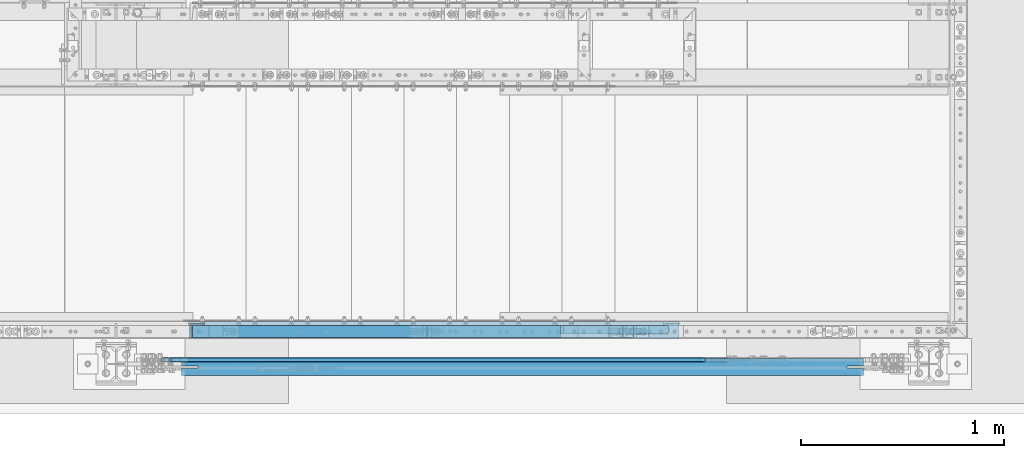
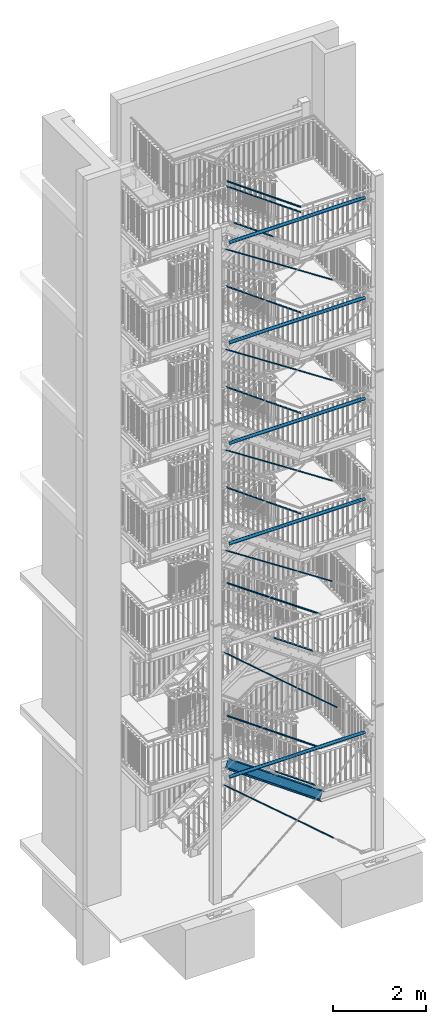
# One storey, part 118 of 825: 17 members, 5 beams, 32 openings.
"""IFC2X3 building model written with IfcOpenShell, lengths in millimetres."""

import ifcopenshell
import ifcopenshell.guid

model = None  # the IFC model being written
_history = None  # IfcOwnerHistory: only IFC2X3 demands one
_inside = {}  # id of a spatial element -> (the spatial element, [elements in it])
_under = {}  # id of a project, library or spatial element -> (it, [spatial elements below it])
_declared = {}  # id of a project -> (the project, [libraries it declares])
_typed = {}  # id of a type object -> (the type object, [elements of that type])
_made_of = {}  # id of a material, layer set ... -> (it, [elements and type objects made of it])


def new_model(schema):
    """Start an empty IFC model of exactly this schema.

    Asked for "IFC4X3", IfcOpenShell would pick the latest addendum, in which some entities
    have other attributes; the version numbers below select the first issue.
    IFC2X3 requires an IfcOwnerHistory on every rooted entity: one is made here for all.
    """
    global model, _history
    if schema == "IFC4X3":
        model = ifcopenshell.file(schema_version=(4, 3, 0, 0))
    else:
        model = ifcopenshell.file(schema=schema)
    _inside.clear()
    _under.clear()
    _declared.clear()
    _typed.clear()
    _made_of.clear()
    _history = None
    if model.schema == "IFC2X3":
        org = make("IfcOrganization", Name="unknown")
        user = make(
            "IfcPersonAndOrganization",
            ThePerson=make("IfcPerson", FamilyName="unknown"),
            TheOrganization=org,
        )
        app = make(
            "IfcApplication",
            ApplicationDeveloper=org,
            Version="unknown",
            ApplicationFullName="unknown",
            ApplicationIdentifier="unknown",
        )
        _history = make(
            "IfcOwnerHistory",
            OwningUser=user,
            OwningApplication=app,
            ChangeAction="ADDED",
            CreationDate=0,
        )
    return model


def make(cls, **values):
    """One entity of the class cls with the attributes given. An attribute that is None is left unset."""
    return model.create_entity(
        cls, **{name: value for name, value in values.items() if value is not None}
    )


def entity(cls, *values):
    """Any entity or typed value of the class cls, its attributes in the order of the schema. None: left unset."""
    e = model.create_entity(cls)
    for i, value in enumerate(values):
        if value is not None:
            e[i] = value
    return e


def rooted(cls, **values):
    """An entity with a GlobalId (a new one), such as an element, a storey or a relation."""
    return make(cls, GlobalId=ifcopenshell.guid.new(), OwnerHistory=_history, **values)


def si_unit(unit_type, name, prefix=None):
    """IfcSIUnit, for example si_unit("LENGTHUNIT", "METRE", prefix="MILLI")."""
    return make("IfcSIUnit", UnitType=unit_type, Prefix=prefix, Name=name)


def converted_unit(unit_type, name, factor, base, dimensions=None, offset=None):
    """IfcConversionBasedUnit, such as the inch: factor (a typed value) times the base unit."""
    return make(
        "IfcConversionBasedUnit"
        if offset is None
        else "IfcConversionBasedUnitWithOffset",
        ConversionOffset=offset,
        Dimensions=None
        if dimensions is None
        else entity("IfcDimensionalExponents", *dimensions),
        UnitType=unit_type,
        Name=name,
        ConversionFactor=make(
            "IfcMeasureWithUnit", ValueComponent=factor, UnitComponent=base
        ),
    )


def assignment(units):
    """IfcUnitAssignment: the units of a project."""
    return None if units is None else make("IfcUnitAssignment", Units=units)


def point(xyz):
    """IfcCartesianPoint."""
    return None if xyz is None else make("IfcCartesianPoint", Coordinates=xyz)


def direction(xyz):
    """IfcDirection."""
    return None if xyz is None else make("IfcDirection", DirectionRatios=xyz)


def frame(location, z_axis=None, x_axis=None):
    """IfcAxis2Placement3D, a coordinate frame: its origin and axes. An axis left out is left unset."""
    return make(
        "IfcAxis2Placement3D",
        Location=point(location),
        Axis=direction(z_axis),
        RefDirection=direction(x_axis),
    )


def frame_2d(location, x_axis=None):
    """IfcAxis2Placement2D, a coordinate frame in the plane: its origin and x axis."""
    return make(
        "IfcAxis2Placement2D", Location=point(location), RefDirection=direction(x_axis)
    )


def origin():
    """The frame at (0, 0, 0) with its axes left unset."""
    return frame((0.0, 0.0, 0.0))


def origin_with_axes():
    """The frame at (0, 0, 0) with the z axis (0, 0, 1) and the x axis (1, 0, 0) written out."""
    return frame((0.0, 0.0, 0.0), z_axis=(0.0, 0.0, 1.0), x_axis=(1.0, 0.0, 0.0))


def origin_2d():
    """The frame at (0, 0) in the plane with its x axis left unset."""
    return frame_2d((0.0, 0.0))


def origin_2d_with_axis():
    """The frame at (0, 0) in the plane with the x axis (1, 0) written out."""
    return frame_2d((0.0, 0.0), x_axis=(1.0, 0.0))


def place(relative_to, where):
    """IfcLocalPlacement: puts the frame where relative to a parent placement (None: the world)."""
    return make(
        "IfcLocalPlacement", PlacementRelTo=relative_to, RelativePlacement=where
    )


def context(
    kind, dimensions, precision=None, world=None, true_north=None, identifier=None
):
    """IfcGeometricRepresentationContext, for example the 3D "Model" context."""
    return make(
        "IfcGeometricRepresentationContext",
        ContextIdentifier=identifier,
        ContextType=kind,
        CoordinateSpaceDimension=dimensions,
        Precision=precision,
        WorldCoordinateSystem=world,
        TrueNorth=true_north,
    )


def project(units=None, contexts=None):
    """IfcProject with its units and contexts."""
    return rooted(
        "IfcProject",
        Name="project",
        RepresentationContexts=contexts,
        UnitsInContext=assignment(units),
    )


def spatial(cls, under=None, at=None, **own):
    """A site, building, storey or space (cls), placed at a placement, below another one or the project."""
    s = rooted(cls, ObjectPlacement=at, **own)
    if under is not None:
        _under.setdefault(under.id(), (under, []))[1].append(s)
    return s


def polyline(points):
    """IfcPolyline through the points."""
    return make("IfcPolyline", Points=[point(p) for p in points])


def profile(cls, at=None, kind="AREA", **sizes):
    """A parametric profile (cls). Its sizes go by their IFC names, for example OverallWidth=200.0."""
    return make(cls, ProfileType=kind, Position=at, **sizes)


def rectangle(**sizes):
    """IfcRectangleProfileDef."""
    return profile("IfcRectangleProfileDef", **sizes)


def circle(**sizes):
    """IfcCircleProfileDef."""
    return profile("IfcCircleProfileDef", **sizes)


def hollow_circle(**sizes):
    """IfcCircleHollowProfileDef."""
    return profile("IfcCircleHollowProfileDef", **sizes)


def u_section(**sizes):
    """IfcUShapeProfileDef."""
    return profile("IfcUShapeProfileDef", **sizes)


def outline(outer, holes=None, kind="AREA"):
    """IfcArbitraryClosedProfileDef: a profile drawn as a closed curve; with holes, ...WithVoids."""
    if holes is None:
        return make("IfcArbitraryClosedProfileDef", ProfileType=kind, OuterCurve=outer)
    return make(
        "IfcArbitraryProfileDefWithVoids",
        ProfileType=kind,
        OuterCurve=outer,
        InnerCurves=holes,
    )


def extrude(swept, where, along, depth):
    """IfcExtrudedAreaSolid: the profile swept, set in the frame where, extruded along a direction by depth."""
    return make(
        "IfcExtrudedAreaSolid",
        SweptArea=swept,
        Position=where,
        ExtrudedDirection=direction(along),
        Depth=depth,
    )


def clip(a, b, op="DIFFERENCE"):
    """IfcBooleanClippingResult: the solid a cut by the half space b."""
    return make(
        "IfcBooleanClippingResult", Operator=op, FirstOperand=a, SecondOperand=b
    )


def halfspace(plane, agree):
    """IfcHalfSpaceSolid: all space on one side of the plane z = 0 of the frame plane."""
    return make(
        "IfcHalfSpaceSolid",
        BaseSurface=make("IfcPlane", Position=plane),
        AgreementFlag=agree,
    )


def shape(context_of_items, identifier, shape_type, items):
    """IfcShapeRepresentation: the items that make up one representation, for example the "Body"."""
    return make(
        "IfcShapeRepresentation",
        ContextOfItems=context_of_items,
        RepresentationIdentifier=identifier,
        RepresentationType=shape_type,
        Items=items,
    )


def material(Name=None, Category=None):
    """IfcMaterial."""
    return make("IfcMaterial", Name=Name, Category=Category)


def made_of(thing, what):
    """Note that an element or type object is made of a material, layer set ...; save() writes the relation."""
    if what is not None:
        _made_of.setdefault(what.id(), (what, []))[1].append(thing)
    return thing


def element(
    cls,
    number,
    at=None,
    inside=None,
    cuts=None,
    type_object=None,
    material=None,
    context=None,
    identifier="Body",
    shape_type=None,
    held_by="IfcProductDefinitionShape",
    body=None,
    shapes=None,
    **own,
):
    """One element of the class cls, such as IfcWall. Its Tag is "e" and its number.

    at: its placement. inside: the storey or other place that contains it. cuts: it is an
    opening in that element (IfcRelVoidsElement). A single representation is given by context,
    identifier, shape_type and body (its items); several are given by shapes. held_by: the class
    of the entity that holds the representations. save() writes the other relations.
    """
    e = rooted(cls, Tag="e%d" % number, ObjectPlacement=at, **own)
    if body is not None:
        shapes = [shape(context, identifier, shape_type, body)]
    if shapes is not None:
        e.Representation = make(held_by, Representations=shapes)
    if inside is not None:
        _inside.setdefault(inside.id(), (inside, []))[1].append(e)
    if cuts is not None:
        rooted(
            "IfcRelVoidsElement", RelatingBuildingElement=cuts, RelatedOpeningElement=e
        )
    if type_object is not None:
        _typed.setdefault(type_object.id(), (type_object, []))[1].append(e)
    return made_of(e, material)


def aggregate(whole, parts):
    """IfcRelAggregates: a whole, such as a stair, and the parts it consists of."""
    return rooted("IfcRelAggregates", RelatingObject=whole, RelatedObjects=parts)


def save(model, path):
    """Write the relations noted so far, then the file.

    IfcRelAggregates (storeys below a building ...), IfcRelContainedInSpatialStructure (elements
    in a storey), IfcRelDefinesByType, IfcRelAssociatesMaterial and IfcRelDeclares: one each for
    every whole, place, type object, material and project.
    """
    for whole, parts in _under.values():
        aggregate(whole, parts)
    for where, things in _inside.values():
        rooted(
            "IfcRelContainedInSpatialStructure",
            RelatedElements=things,
            RelatingStructure=where,
        )
    for kind, things in _typed.values():
        rooted("IfcRelDefinesByType", RelatedObjects=things, RelatingType=kind)
    for what, things in _made_of.values():
        rooted("IfcRelAssociatesMaterial", RelatedObjects=things, RelatingMaterial=what)
    for by, libraries in _declared.values():
        rooted("IfcRelDeclares", RelatingContext=by, RelatedDefinitions=libraries)
    model.write(path)


model = new_model("IFC2X3")

# Units and contexts
model_context = context("Model", 3, precision=1e-09, world=origin_with_axes())
ifc_project = project(units=[si_unit("LENGTHUNIT", "METRE", prefix="MILLI"), si_unit("AREAUNIT", "SQUARE_METRE"), si_unit("VOLUMEUNIT", "CUBIC_METRE"), converted_unit("PLANEANGLEUNIT", "DEGREE", entity("IfcPlaneAngleMeasure", 0.01745329), si_unit("PLANEANGLEUNIT", "RADIAN"), dimensions=[0, 0, 0, 0, 0, 0, 0])], contexts=[model_context])

# Site, building, storey
site_placement = place(None, origin_with_axes())
site = spatial("IfcSite", under=ifc_project, at=site_placement, Name="Cnopf'sche Kinderklinik", CompositionType="ELEMENT")
building_placement = place(site_placement, origin_with_axes())
building = spatial("IfcBuilding", under=site, at=building_placement, Name="Struktur 1", CompositionType="ELEMENT")
storey_placement = place(building_placement, origin_with_axes())
storey = spatial("IfcBuildingStorey", under=building, at=storey_placement, Name="Default Storey", CompositionType="ELEMENT", Elevation=0.0)

# Members
ifc_material = material(Name="S235JR")
member_1_placement = place(None, frame((5085.030637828, 4386.736971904, 3315.453588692), z_axis=(0.757867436, 0.0, -0.652408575), x_axis=(0.652408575, 0.0, 0.757867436)))
element("IfcMember", 1, at=member_1_placement, inside=storey, material=ifc_material, Name="-", ObjectType="-", context=model_context, shape_type="SweptSolid", body=[
    extrude(circle(Radius=11.0, at=origin_2d()), origin(), (0.0, 0.0, 1.0), 3558.71454228),
])
member_2_placement = place(None, frame((5083.107423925, 4386.736971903, 6788.923578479), z_axis=(0.755906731, 0.0, -0.654679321), x_axis=(0.654679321, 0.0, 0.755906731)))
element("IfcMember", 2, at=member_2_placement, inside=storey, material=ifc_material, Name="-", ObjectType="-", context=model_context, shape_type="SweptSolid", body=[
    extrude(circle(Radius=11.0, at=origin_2d()), origin(), (0.0, 0.0, 1.0), 3695.890496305),
])
member_3_placement = place(None, frame((5121.759351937, 4386.736971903, 9443.034675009), z_axis=(0.83600607, 0.0, -0.548720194), x_axis=(0.548720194, 0.0, 0.83600607)))
element("IfcMember", 3, at=member_3_placement, inside=storey, material=ifc_material, Name="-", ObjectType="-", context=model_context, shape_type="SweptSolid", body=[
    extrude(circle(Radius=11.0, at=origin_2d()), origin(), (0.0, 0.0, 1.0), 3152.49296177),
])
member_4_placement = place(None, frame((5121.91149273, 4386.736971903, 12070.267324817), z_axis=(0.836491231, 0.0, -0.547980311), x_axis=(0.547980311, 0.0, 0.836491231)))
element("IfcMember", 4, at=member_4_placement, inside=storey, material=ifc_material, Name="-", ObjectType="-", context=model_context, shape_type="SweptSolid", body=[
    extrude(circle(Radius=11.0, at=origin_2d()), origin(), (0.0, 0.0, 1.0), 3149.751568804),
])
member_5_placement = place(None, frame((5121.66865522, 4386.736971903, 14704.895983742), z_axis=(0.835719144, 0.0, -0.549157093), x_axis=(0.549157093, 0.0, 0.835719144)))
element("IfcMember", 5, at=member_5_placement, inside=storey, material=ifc_material, Name="-", ObjectType="-", context=model_context, shape_type="SweptSolid", body=[
    extrude(circle(Radius=11.0, at=origin_2d()), origin(), (0.0, 0.0, 1.0), 3154.139325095),
])
member_6_placement = place(None, frame((5122.12270333, 4386.736971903, 17325.590428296), z_axis=(0.837153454, 0.0, -0.546968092), x_axis=(0.546968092, 0.0, 0.837153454)))
element("IfcMember", 6, at=member_6_placement, inside=storey, material=ifc_material, Name="-", ObjectType="-", context=model_context, shape_type="SweptSolid", body=[
    extrude(circle(Radius=11.0, at=origin_2d()), origin(), (0.0, 0.0, 1.0), 3145.919038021),
])

# Beam, openings
beam_1_placement = place(None, frame((5179.963402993, 4351.736971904, 3511.999996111), z_axis=(-1.0, 0.0, 0.0), x_axis=(0.0, 0.0, -1.0)))
beam_1 = element("IfcBeam", 7, at=beam_1_placement, inside=storey, material=ifc_material, Name="Girder", ObjectType="Girder", context=model_context, shape_type="SweptSolid", body=[
    extrude(hollow_circle(Radius=41.25, WallThickness=3.2, at=origin_2d()), origin(), (0.0, 0.0, -1.0), 3363.5),
])
opening_1_placement = place(beam_1_placement, frame((141.35, 0.0, -3363.5), z_axis=(-1.0, 0.0, 0.0), x_axis=(0.0, 0.0, -1.0)))
element("IfcOpeningElement", 8, at=opening_1_placement, cuts=beam_1, ObjectType="Opening", context=model_context, shape_type="SweptSolid", body=[
    extrude(outline(polyline([(-81.001, -5.501), (26.790041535, -5.501), (26.790041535, 5.501), (-81.001, 5.501), (-81.001, -5.501)])), origin(), (0.0, 0.0, 1.0), 282.7),
])
opening_2_placement = place(beam_1_placement, frame((141.35, 5.501, -81.002000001), z_axis=(1.0, 0.0, 0.0), x_axis=(0.0, 0.0, 1.0)))
element("IfcOpeningElement", 9, at=opening_2_placement, cuts=beam_1, ObjectType="Opening", context=model_context, shape_type="SweptSolid", body=[
    extrude(outline(polyline([(0.0, 0.0), (114.972485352, 0.0), (114.972485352, 11.002), (0.0, 11.002), (0.0, 0.0)])), origin(), (0.0, 0.0, -1.0), 282.7),
])

beam_2_placement = place(None, frame((5179.963402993, 4351.736971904, 9616.999996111), z_axis=(-1.0, 0.0, 0.0), x_axis=(0.0, 0.0, -1.0)))
beam_2 = element("IfcBeam", 10, at=beam_2_placement, inside=storey, material=ifc_material, Name="Girder", ObjectType="Girder", context=model_context, shape_type="SweptSolid", body=[
    extrude(hollow_circle(Radius=41.25, WallThickness=3.2, at=origin_2d()), origin(), (0.0, 0.0, -1.0), 3363.5),
])
opening_3_placement = place(beam_2_placement, frame((141.35, 0.0, -3363.5), z_axis=(-1.0, 0.0, 0.0), x_axis=(0.0, 0.0, -1.0)))
element("IfcOpeningElement", 11, at=opening_3_placement, cuts=beam_2, ObjectType="Opening", context=model_context, shape_type="SweptSolid", body=[
    extrude(outline(polyline([(-81.001, -5.501), (26.790041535, -5.501), (26.790041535, 5.501), (-81.001, 5.501), (-81.001, -5.501)])), origin(), (0.0, 0.0, 1.0), 282.7),
])
opening_4_placement = place(beam_2_placement, frame((141.35, 5.501, -81.002000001), z_axis=(1.0, 0.0, 0.0), x_axis=(0.0, 0.0, 1.0)))
element("IfcOpeningElement", 12, at=opening_4_placement, cuts=beam_2, ObjectType="Opening", context=model_context, shape_type="SweptSolid", body=[
    extrude(outline(polyline([(0.0, 0.0), (114.972485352, 0.0), (114.972485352, 11.002), (0.0, 11.002), (0.0, 0.0)])), origin(), (0.0, 0.0, -1.0), 282.7),
])

beam_3_placement = place(None, frame((5179.963402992, 4351.736971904, 12243.999996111), z_axis=(-1.0, 0.0, 0.0), x_axis=(0.0, 0.0, -1.0)))
beam_3 = element("IfcBeam", 13, at=beam_3_placement, inside=storey, material=ifc_material, Name="Girder", ObjectType="Girder", context=model_context, shape_type="SweptSolid", body=[
    extrude(hollow_circle(Radius=41.25, WallThickness=3.2, at=origin_2d()), origin(), (0.0, 0.0, -1.0), 3363.5),
])
opening_5_placement = place(beam_3_placement, frame((141.35, 0.0, -3363.5), z_axis=(-1.0, 0.0, 0.0), x_axis=(0.0, 0.0, -1.0)))
element("IfcOpeningElement", 14, at=opening_5_placement, cuts=beam_3, ObjectType="Opening", context=model_context, shape_type="SweptSolid", body=[
    extrude(outline(polyline([(-81.001, -5.501), (26.790041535, -5.501), (26.790041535, 5.501), (-81.001, 5.501), (-81.001, -5.501)])), origin(), (0.0, 0.0, 1.0), 282.7),
])
opening_6_placement = place(beam_3_placement, frame((141.35, 5.501, -81.002000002), z_axis=(1.0, 0.0, 0.0), x_axis=(0.0, 0.0, 1.0)))
element("IfcOpeningElement", 15, at=opening_6_placement, cuts=beam_3, ObjectType="Opening", context=model_context, shape_type="SweptSolid", body=[
    extrude(outline(polyline([(0.0, 0.0), (114.972485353, 0.0), (114.972485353, 11.002), (0.0, 11.002), (0.0, 0.0)])), origin(), (0.0, 0.0, -1.0), 282.7),
])

beam_4_placement = place(None, frame((5179.963402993, 4351.736971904, 14878.999996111), z_axis=(-1.0, 0.0, 0.0), x_axis=(0.0, 0.0, -1.0)))
beam_4 = element("IfcBeam", 16, at=beam_4_placement, inside=storey, material=ifc_material, Name="Girder", ObjectType="Girder", context=model_context, shape_type="SweptSolid", body=[
    extrude(hollow_circle(Radius=41.25, WallThickness=3.2, at=origin_2d()), origin(), (0.0, 0.0, -1.0), 3363.5),
])
opening_7_placement = place(beam_4_placement, frame((141.35, 0.0, -3363.5), z_axis=(-1.0, 0.0, 0.0), x_axis=(0.0, 0.0, -1.0)))
element("IfcOpeningElement", 17, at=opening_7_placement, cuts=beam_4, ObjectType="Opening", context=model_context, shape_type="SweptSolid", body=[
    extrude(outline(polyline([(-81.001, -5.501), (26.790041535, -5.501), (26.790041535, 5.501), (-81.001, 5.501), (-81.001, -5.501)])), origin(), (0.0, 0.0, 1.0), 282.7),
])
opening_8_placement = place(beam_4_placement, frame((141.35, 5.501, -81.002000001), z_axis=(1.0, 0.0, 0.0), x_axis=(0.0, 0.0, 1.0)))
element("IfcOpeningElement", 18, at=opening_8_placement, cuts=beam_4, ObjectType="Opening", context=model_context, shape_type="SweptSolid", body=[
    extrude(outline(polyline([(0.0, 0.0), (114.972485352, 0.0), (114.972485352, 11.002), (0.0, 11.002), (0.0, 0.0)])), origin(), (0.0, 0.0, -1.0), 282.7),
])

beam_5_placement = place(None, frame((5179.963402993, 4351.736971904, 17498.999996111), z_axis=(-1.0, 0.0, 0.0), x_axis=(0.0, 0.0, -1.0)))
beam_5 = element("IfcBeam", 19, at=beam_5_placement, inside=storey, material=ifc_material, Name="Girder", ObjectType="Girder", context=model_context, shape_type="SweptSolid", body=[
    extrude(hollow_circle(Radius=41.25, WallThickness=3.2, at=origin_2d()), origin(), (0.0, 0.0, -1.0), 3363.5),
])
opening_9_placement = place(beam_5_placement, frame((141.35, 0.0, -3363.5), z_axis=(-1.0, 0.0, 0.0), x_axis=(0.0, 0.0, -1.0)))
element("IfcOpeningElement", 20, at=opening_9_placement, cuts=beam_5, ObjectType="Opening", context=model_context, shape_type="SweptSolid", body=[
    extrude(outline(polyline([(-81.001, -5.501), (26.790041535, -5.501), (26.790041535, 5.501), (-81.001, 5.501), (-81.001, -5.501)])), origin(), (0.0, 0.0, 1.0), 282.7),
])
opening_10_placement = place(beam_5_placement, frame((141.35, 5.501, -81.002000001), z_axis=(1.0, 0.0, 0.0), x_axis=(0.0, 0.0, 1.0)))
element("IfcOpeningElement", 21, at=opening_10_placement, cuts=beam_5, ObjectType="Opening", context=model_context, shape_type="SweptSolid", body=[
    extrude(outline(polyline([(0.0, 0.0), (114.972485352, 0.0), (114.972485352, 11.002), (0.0, 11.002), (0.0, 0.0)])), origin(), (0.0, 0.0, -1.0), 282.7),
])

# Members
member_7_placement = place(None, frame((7602.354363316, 4535.536971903, 3302.79772078), z_axis=(0.814635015, 0.0, -0.579973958), x_axis=(-0.579973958, 0.0, -0.814635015)))
element("IfcMember", 22, at=member_7_placement, inside=storey, material=ifc_material, Name="Gel?nder", ObjectType="Gel?nder", context=model_context, shape_type="Clipping", body=[
    clip(clip(extrude(hollow_circle(Radius=21.2, WallThickness=3.2, at=origin_2d()), origin(), (0.0, 0.0, -1.0), 2935.40281845), halfspace(frame((6043.370805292, -4535.536971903, -972.409756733), z_axis=(-0.304437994, 0.0, 0.952532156), x_axis=(0.0, 1.0, 0.0)), True)), halfspace(frame((5210.397729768, -4535.536971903, 1633.814350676), z_axis=(0.304437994, 0.0, -0.952532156), x_axis=(0.0, -1.0, 0.0)), True)),
])
member_8_placement = place(None, frame((7406.697121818, 4526.736971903, 2421.8849209), z_axis=(0.814635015, 0.0, -0.579973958), x_axis=(-0.579973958, 0.0, -0.814635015)))
element("IfcMember", 23, at=member_8_placement, inside=storey, material=ifc_material, Name="Railing_Kneerail_Stair#13", ObjectType="Railing_Kneerail_Stair#13", context=model_context, shape_type="SweptSolid", body=[
    extrude(rectangle(XDim=10.0, YDim=60.0, at=origin_2d()), origin(), (0.0, 0.0, -1.0), 1218.06374537),
])
member_9_placement = place(None, frame((7602.437980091, 4535.536971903, 6796.809421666), z_axis=(0.818063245, 0.0, -0.57512827), x_axis=(-0.57512827, 0.0, -0.818063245)))
element("IfcMember", 24, at=member_9_placement, inside=storey, material=ifc_material, Name="Gel?nder", ObjectType="Gel?nder", context=model_context, shape_type="Clipping", body=[
    clip(clip(extrude(hollow_circle(Radius=21.2, WallThickness=3.2, at=origin_2d()), origin(), (0.0, 0.0, -1.0), 2923.30595161), halfspace(frame((9196.298185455, -4535.536971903, 17.308609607), z_axis=(-0.301609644, 0.0, 0.953431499), x_axis=(0.0, 1.0, 0.0)), True)), halfspace(frame((8373.746157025, -4535.536971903, 2617.513971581), z_axis=(0.301609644, 0.0, -0.953431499), x_axis=(0.0, -1.0, 0.0)), True)),
])
member_10_placement = place(None, frame((7354.416475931, 4526.736971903, 5950.633535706), z_axis=(0.818063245, 0.0, -0.57512827), x_axis=(-0.57512827, 0.0, -0.818063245)))
element("IfcMember", 25, at=member_10_placement, inside=storey, material=ifc_material, Name="Railing_Kneerail_Stair#15", ObjectType="Railing_Kneerail_Stair#15", context=model_context, shape_type="SweptSolid", body=[
    extrude(rectangle(XDim=10.0, YDim=60.0, at=origin_2d()), origin(), (0.0, 0.0, -1.0), 1178.697204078),
])
member_11_placement = place(None, frame((7082.280686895, 4535.536971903, 17645.597175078), z_axis=(0.811618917, 0.0, -0.584187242), x_axis=(-0.584187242, 0.0, -0.811618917)))
element("IfcMember", 26, at=member_11_placement, inside=storey, material=ifc_material, Name="Gel?nder", ObjectType="Gel?nder", context=model_context, shape_type="Clipping", body=[
    clip(clip(extrude(hollow_circle(Radius=21.2, WallThickness=3.2, at=origin_2d()), origin(), (0.0, 0.0, -1.0), 2305.43488958), halfspace(frame((18716.438937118, -4535.536971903, 3761.500887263), z_axis=(-0.306904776, 0.0, 0.951740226), x_axis=(0.0, 1.0, 0.0)), True)), halfspace(frame((18061.439551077, -4535.536971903, 5792.714841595), z_axis=(0.306904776, 0.0, -0.951740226), x_axis=(0.0, -1.0, 0.0)), True)),
])
member_12_placement = place(None, frame((6369.371038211, 4526.736971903, 17138.82228556), z_axis=(0.811618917, 0.0, -0.584187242), x_axis=(-0.584187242, 0.0, -0.811618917)))
element("IfcMember", 27, at=member_12_placement, inside=storey, material=ifc_material, Name="Railing_Kneerail_Stair#16", ObjectType="Railing_Kneerail_Stair#16", context=model_context, shape_type="SweptSolid", body=[
    extrude(rectangle(XDim=10.0, YDim=60.0, at=origin_2d()), origin(), (0.0, 0.0, -1.0), 1187.944551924),
])

# Member, openings
member_13_placement = place(None, frame((7774.802623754, 4554.436971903, 1932.719101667), z_axis=(-0.814635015, 0.0, 0.579973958), x_axis=(0.0, -1.0, 0.0)))
member_13 = element("IfcMember", 28, at=member_13_placement, inside=storey, material=ifc_material, Name="Stringer#1", ObjectType="Stringer#1", context=model_context, shape_type="Clipping", body=[
    clip(clip(extrude(u_section(Depth=240.0, FlangeWidth=85.0, WebThickness=9.5, FlangeThickness=13.0, FilletRadius=13.0, EdgeRadius=6.5, FlangeSlope=4.574, at=frame_2d((20.2, 0.0))), origin(), (0.0, 0.0, 1.0), 3391.707504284), halfspace(frame((4554.436971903, -4072.348471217, -1080.284148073), z_axis=(0.0, -0.304437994, 0.952532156), x_axis=(1.0, 0.0, 0.0)), True)), halfspace(frame((4554.436971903, -4905.321546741, 1525.939959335), z_axis=(0.0, 0.304437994, -0.952532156), x_axis=(-1.0, 0.0, 0.0)), True)),
])
opening_11_placement = place(member_13_placement, frame((-22.8, 54.89598563, 2240.178028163), z_axis=(1.0, 0.0, 0.0), x_axis=(0.0, -0.579973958, 0.814635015)))
element("IfcOpeningElement", 29, at=opening_11_placement, cuts=member_13, ObjectType="Opening", context=model_context, shape_type="SweptSolid", body=[
    extrude(circle(Radius=7.001, at=origin_2d_with_axis()), origin(), (0.0, 0.0, 1.0), 10.5),
])
opening_12_placement = place(member_13_placement, frame((-22.8, 54.89598563, 963.532683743), z_axis=(1.0, 0.0, 0.0), x_axis=(0.0, -0.579973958, 0.814635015)))
element("IfcOpeningElement", 30, at=opening_12_placement, cuts=member_13, ObjectType="Opening", context=model_context, shape_type="SweptSolid", body=[
    extrude(circle(Radius=7.001, at=origin_2d_with_axis()), origin(), (0.0, 0.0, 1.0), 10.5),
])
opening_13_placement = place(member_13_placement, frame((-22.8, -49.49932673, 2067.650994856), z_axis=(1.0, 0.0, 0.0), x_axis=(0.0, -0.579973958, 0.814635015)))
element("IfcOpeningElement", 31, at=opening_13_placement, cuts=member_13, ObjectType="Opening", context=model_context, shape_type="SweptSolid", body=[
    extrude(circle(Radius=7.001, at=origin_2d_with_axis()), origin(), (0.0, 0.0, 1.0), 10.5),
])
opening_14_placement = place(member_13_placement, frame((-22.8, 54.89598563, 2559.339364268), z_axis=(1.0, 0.0, 0.0), x_axis=(0.0, -0.579973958, 0.814635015)))
element("IfcOpeningElement", 32, at=opening_14_placement, cuts=member_13, ObjectType="Opening", context=model_context, shape_type="SweptSolid", body=[
    extrude(circle(Radius=7.001, at=origin_2d_with_axis()), origin(), (0.0, 0.0, 1.0), 10.5),
])
opening_15_placement = place(member_13_placement, frame((-22.8, -49.49932673, 3025.135003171), z_axis=(1.0, 0.0, 0.0), x_axis=(0.0, -0.579973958, 0.814635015)))
element("IfcOpeningElement", 33, at=opening_15_placement, cuts=member_13, ObjectType="Opening", context=model_context, shape_type="SweptSolid", body=[
    extrude(circle(Radius=7.001, at=origin_2d_with_axis()), origin(), (0.0, 0.0, 1.0), 10.5),
])
opening_16_placement = place(member_13_placement, frame((-22.8, -49.49932673, 1110.166986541), z_axis=(1.0, 0.0, 0.0), x_axis=(0.0, -0.579973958, 0.814635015)))
element("IfcOpeningElement", 34, at=opening_16_placement, cuts=member_13, ObjectType="Opening", context=model_context, shape_type="SweptSolid", body=[
    extrude(circle(Radius=7.001, at=origin_2d_with_axis()), origin(), (0.0, 0.0, 1.0), 10.5),
])
opening_17_placement = place(member_13_placement, frame((-22.8, -49.49932673, 791.005650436), z_axis=(1.0, 0.0, 0.0), x_axis=(0.0, -0.579973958, 0.814635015)))
element("IfcOpeningElement", 35, at=opening_17_placement, cuts=member_13, ObjectType="Opening", context=model_context, shape_type="SweptSolid", body=[
    extrude(circle(Radius=7.001, at=origin_2d_with_axis()), origin(), (0.0, 0.0, 1.0), 10.5),
])
opening_18_placement = place(member_13_placement, frame((-22.8, -49.49932673, 1429.328322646), z_axis=(1.0, 0.0, 0.0), x_axis=(0.0, -0.579973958, 0.814635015)))
element("IfcOpeningElement", 36, at=opening_18_placement, cuts=member_13, ObjectType="Opening", context=model_context, shape_type="SweptSolid", body=[
    extrude(circle(Radius=7.001, at=origin_2d_with_axis()), origin(), (0.0, 0.0, 1.0), 10.5),
])
opening_19_placement = place(member_13_placement, frame((-22.8, 54.89598563, 1601.855355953), z_axis=(1.0, 0.0, 0.0), x_axis=(0.0, -0.579973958, 0.814635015)))
element("IfcOpeningElement", 37, at=opening_19_placement, cuts=member_13, ObjectType="Opening", context=model_context, shape_type="SweptSolid", body=[
    extrude(circle(Radius=7.001, at=origin_2d_with_axis()), origin(), (0.0, 0.0, 1.0), 10.5),
])
opening_20_placement = place(member_13_placement, frame((-22.8, -49.49932673, 2705.973667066), z_axis=(1.0, 0.0, 0.0), x_axis=(0.0, -0.579973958, 0.814635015)))
element("IfcOpeningElement", 38, at=opening_20_placement, cuts=member_13, ObjectType="Opening", context=model_context, shape_type="SweptSolid", body=[
    extrude(circle(Radius=7.001, at=origin_2d_with_axis()), origin(), (0.0, 0.0, 1.0), 10.5),
])
opening_21_placement = place(member_13_placement, frame((-22.8, -49.49932673, 2386.812330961), z_axis=(1.0, 0.0, 0.0), x_axis=(0.0, -0.579973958, 0.814635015)))
element("IfcOpeningElement", 39, at=opening_21_placement, cuts=member_13, ObjectType="Opening", context=model_context, shape_type="SweptSolid", body=[
    extrude(circle(Radius=7.001, at=origin_2d_with_axis()), origin(), (0.0, 0.0, 1.0), 10.5),
])
opening_22_placement = place(member_13_placement, frame((-22.8, 54.89598563, 644.371347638), z_axis=(1.0, 0.0, 0.0), x_axis=(0.0, -0.579973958, 0.814635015)))
element("IfcOpeningElement", 40, at=opening_22_placement, cuts=member_13, ObjectType="Opening", context=model_context, shape_type="SweptSolid", body=[
    extrude(circle(Radius=7.001, at=origin_2d_with_axis()), origin(), (0.0, 0.0, 1.0), 10.5),
])
opening_23_placement = place(member_13_placement, frame((-22.8, 54.89598563, 1921.016692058), z_axis=(1.0, 0.0, 0.0), x_axis=(0.0, -0.579973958, 0.814635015)))
element("IfcOpeningElement", 41, at=opening_23_placement, cuts=member_13, ObjectType="Opening", context=model_context, shape_type="SweptSolid", body=[
    extrude(circle(Radius=7.001, at=origin_2d_with_axis()), origin(), (0.0, 0.0, 1.0), 10.5),
])
opening_24_placement = place(member_13_placement, frame((-22.8, 54.89598563, 2878.500700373), z_axis=(1.0, 0.0, 0.0), x_axis=(0.0, -0.579973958, 0.814635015)))
element("IfcOpeningElement", 42, at=opening_24_placement, cuts=member_13, ObjectType="Opening", context=model_context, shape_type="SweptSolid", body=[
    extrude(circle(Radius=7.001, at=origin_2d_with_axis()), origin(), (0.0, 0.0, 1.0), 10.5),
])
opening_25_placement = place(member_13_placement, frame((-22.8, 54.89598563, 1282.694019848), z_axis=(1.0, 0.0, 0.0), x_axis=(0.0, -0.579973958, 0.814635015)))
element("IfcOpeningElement", 43, at=opening_25_placement, cuts=member_13, ObjectType="Opening", context=model_context, shape_type="SweptSolid", body=[
    extrude(circle(Radius=7.001, at=origin_2d_with_axis()), origin(), (0.0, 0.0, 1.0), 10.5),
])
opening_26_placement = place(member_13_placement, frame((-22.8, -49.49932673, 1748.489658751), z_axis=(1.0, 0.0, 0.0), x_axis=(0.0, -0.579973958, 0.814635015)))
element("IfcOpeningElement", 44, at=opening_26_placement, cuts=member_13, ObjectType="Opening", context=model_context, shape_type="SweptSolid", body=[
    extrude(circle(Radius=7.001, at=origin_2d_with_axis()), origin(), (0.0, 0.0, 1.0), 10.5),
])
opening_27_placement = place(member_13_placement, frame((27.7, 120.5, 581.652992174), z_axis=(0.0, 1.0, 0.0), x_axis=(-1.0, 0.0, 0.0)))
element("IfcOpeningElement", 45, at=opening_27_placement, cuts=member_13, ObjectType="Opening", context=model_context, shape_type="SweptSolid", body=[
    extrude(circle(Radius=7.001, at=frame_2d((0.0, 7.001), x_axis=(1.0, 0.0))), origin(), (0.0, 0.0, -1.0), 14.0),
])
opening_28_placement = place(member_13_placement, frame((27.7, 120.5, 481.652992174), z_axis=(0.0, 1.0, 0.0), x_axis=(-1.0, 0.0, 0.0)))
element("IfcOpeningElement", 46, at=opening_28_placement, cuts=member_13, ObjectType="Opening", context=model_context, shape_type="SweptSolid", body=[
    extrude(circle(Radius=7.001, at=frame_2d((0.0, 7.001), x_axis=(1.0, 0.0))), origin(), (0.0, 0.0, -1.0), 14.0),
])
opening_29_placement = place(member_13_placement, frame((27.7, 120.5, 1825.24932475), z_axis=(0.0, 1.0, 0.0), x_axis=(-1.0, 0.0, 0.0)))
element("IfcOpeningElement", 47, at=opening_29_placement, cuts=member_13, ObjectType="Opening", context=model_context, shape_type="SweptSolid", body=[
    extrude(circle(Radius=7.001, at=frame_2d((0.0, 7.001), x_axis=(1.0, 0.0))), origin(), (0.0, 0.0, -1.0), 14.0),
])
opening_30_placement = place(member_13_placement, frame((27.7, 120.5, 1725.24932475), z_axis=(0.0, 1.0, 0.0), x_axis=(-1.0, 0.0, 0.0)))
element("IfcOpeningElement", 48, at=opening_30_placement, cuts=member_13, ObjectType="Opening", context=model_context, shape_type="SweptSolid", body=[
    extrude(circle(Radius=7.001, at=frame_2d((0.0, 7.001), x_axis=(1.0, 0.0))), origin(), (0.0, 0.0, -1.0), 14.0),
])
opening_31_placement = place(member_13_placement, frame((27.7, 120.5, 3068.845657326), z_axis=(0.0, 1.0, 0.0), x_axis=(-1.0, 0.0, 0.0)))
element("IfcOpeningElement", 49, at=opening_31_placement, cuts=member_13, ObjectType="Opening", context=model_context, shape_type="SweptSolid", body=[
    extrude(circle(Radius=7.001, at=frame_2d((0.0, 7.001), x_axis=(1.0, 0.0))), origin(), (0.0, 0.0, -1.0), 14.0),
])
opening_32_placement = place(member_13_placement, frame((27.7, 120.5, 2968.845657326), z_axis=(0.0, 1.0, 0.0), x_axis=(-1.0, 0.0, 0.0)))
element("IfcOpeningElement", 50, at=opening_32_placement, cuts=member_13, ObjectType="Opening", context=model_context, shape_type="SweptSolid", body=[
    extrude(circle(Radius=7.001, at=frame_2d((0.0, 7.001), x_axis=(1.0, 0.0))), origin(), (0.0, 0.0, -1.0), 14.0),
])

# Members
member_14_placement = place(None, frame((7046.956167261, 4526.736971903, 17538.741905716), z_axis=(0.811618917, 0.0, -0.584187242), x_axis=(-0.584187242, 0.0, -0.811618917)))
element("IfcMember", 51, at=member_14_placement, inside=storey, material=ifc_material, Name="Railing_Kneerail_Stair#1015", ObjectType="Railing_Kneerail_Stair#1015", context=model_context, shape_type="SweptSolid", body=[
    extrude(rectangle(XDim=10.0, YDim=60.0, at=origin_2d()), origin(), (0.0, 0.0, -1.0), 2239.207046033),
])
member_15_placement = place(None, frame((7046.913465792, 4526.736971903, 14911.249833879), z_axis=(0.810033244, 0.0, -0.586383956), x_axis=(-0.586383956, 0.0, -0.810033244)))
element("IfcMember", 52, at=member_15_placement, inside=storey, material=ifc_material, Name="Railing_Kneerail_Stair#1015", ObjectType="Railing_Kneerail_Stair#1015", context=model_context, shape_type="SweptSolid", body=[
    extrude(rectangle(XDim=10.0, YDim=60.0, at=origin_2d()), origin(), (0.0, 0.0, -1.0), 2243.581734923),
])
member_16_placement = place(None, frame((7046.936219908, 4526.736971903, 12280.245605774), z_axis=(0.810878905, 0.0, -0.585213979), x_axis=(-0.585213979, 0.0, -0.810878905)))
element("IfcMember", 53, at=member_16_placement, inside=storey, material=ifc_material, Name="Railing_Kneerail_Stair#1015", ObjectType="Railing_Kneerail_Stair#1015", context=model_context, shape_type="SweptSolid", body=[
    extrude(rectangle(XDim=10.0, YDim=60.0, at=origin_2d()), origin(), (0.0, 0.0, -1.0), 2241.24651141),
])
member_17_placement = place(None, frame((7046.92199323, 4526.736971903, 9650.74824821), z_axis=(0.810350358, 0.0, -0.585945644), x_axis=(-0.585945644, 0.0, -0.810350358)))
element("IfcMember", 54, at=member_17_placement, inside=storey, material=ifc_material, Name="Railing_Kneerail_Stair#1017", ObjectType="Railing_Kneerail_Stair#1017", context=model_context, shape_type="SweptSolid", body=[
    extrude(rectangle(XDim=10.0, YDim=60.0, at=origin_2d()), origin(), (0.0, 0.0, -1.0), 2242.705476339),
])

save(model, "model.ifc")
